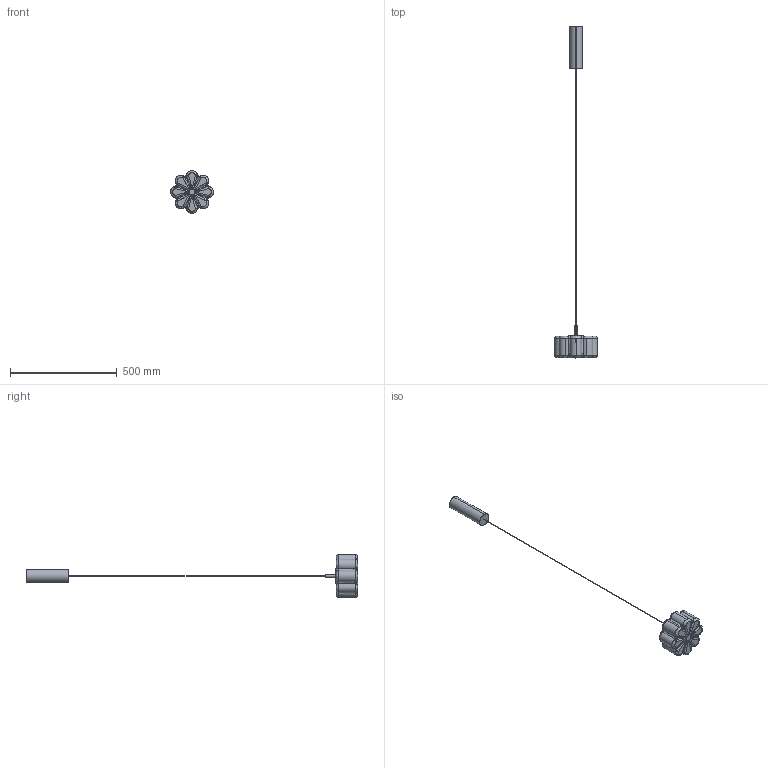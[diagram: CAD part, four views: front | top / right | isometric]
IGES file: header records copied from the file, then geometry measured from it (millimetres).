
Start section: SolidWorks IGES file using analytic representation for surfaces
Global section: file name: C:\Users\Agustin\Desktop\ENERO 2025\2D-3D\2D-3D FLOW_C1339\FLOW_C1339.IGS; native system: SolidWorks 2018; preprocessor: SolidWorks 2018; author: Agustin; date: 250117.134524; units: millimetre
Bounding box: 200 x 1553 x 200 mm (x, y, z)
Surface area: 184866 mm2 (no closed solid volume)
Topology: 0 solids, 0 shells, 165 faces, 2123 edges, 2109 vertices
Faces by surface type: bspline 100, revolution 65
